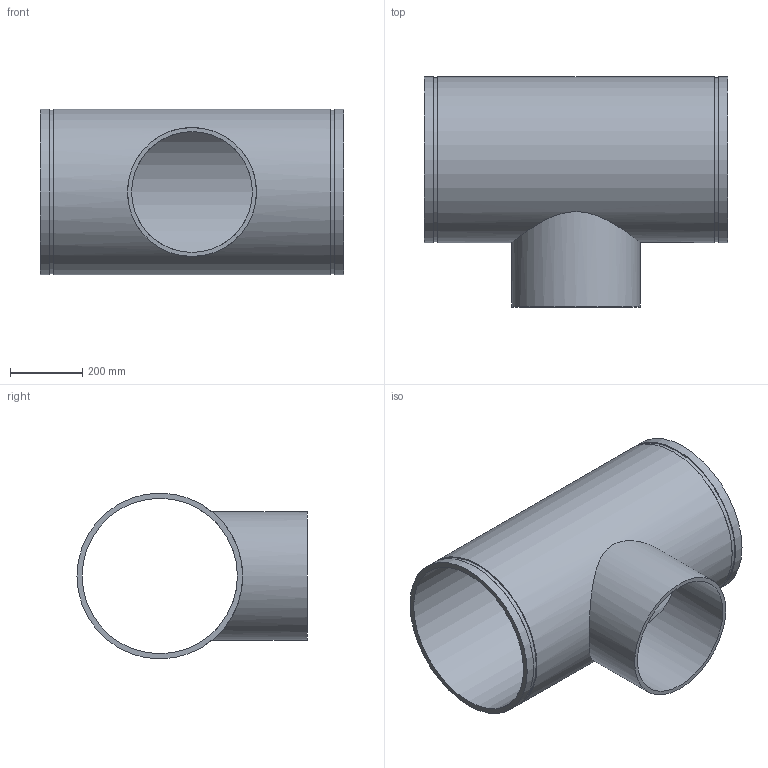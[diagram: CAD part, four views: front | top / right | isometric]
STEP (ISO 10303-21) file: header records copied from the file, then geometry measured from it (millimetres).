
FILE_DESCRIPTION(/* description */ ('VIC REDUCING TEE No 29T FFT (OGSxMPT)','CAx-IF Rec.Pracs.---Representation and Presentation of Product Manufacturing Information (PMI)---4.0---2014-10-13'),/* implementation_level */ '2;1');
FILE_NAME(/* name */ 'C:\Users\kkamble\AppData\Roaming\Autodesk\ApplicationPlugins\Back Up\Victaulic_IPS_Tee Reducing_No 29T FFT (OGSxMPT)\Victaulic_IPS_Tee Reducing_No 29T FFT (OGSxMPT)_18.0x14.0 (450x350).stp',/* time_stamp */ '2020-09-16T22:40:19+05:00',/* author */ ('CORINNE GRAY'),/* organization */ ('Victaulic'),/* preprocessor_version */ 'ST-DEVELOPER v17.2',/* originating_system */ 'Autodesk Inventor 2019',/* authorisation */ '');
FILE_SCHEMA (('AP242_MANAGED_MODEL_BASED_3D_ENGINEERING_MIM_LF { 1 0 10303 442 1 1 4 }'));
Length unit declared in the file: inch
Products named in the file (1): 29 FFT-18.0x14.0
Bounding box: 838.2 x 635 x 457.2 mm (x, y, z)
Volume: 17792683.4 mm3; surface area: 2678131.2 mm2
Topology: 1 solids, 1 shells, 15 faces, 32 edges, 24 vertices
Faces by surface type: cylinder 8, plane 7
Full cylindrical faces by diameter (mm): 333.4 x1, 355.6 x1, 428.6 x1, 451.637 x2, 457.2 x3
Entity records: 757 total; most frequent: CARTESIAN_POINT 269, DIRECTION 106, ORIENTED_EDGE 64, AXIS2_PLACEMENT_3D 49, EDGE_CURVE 32, EDGE_LOOP 24, VERTEX_POINT 24, CIRCLE 20
